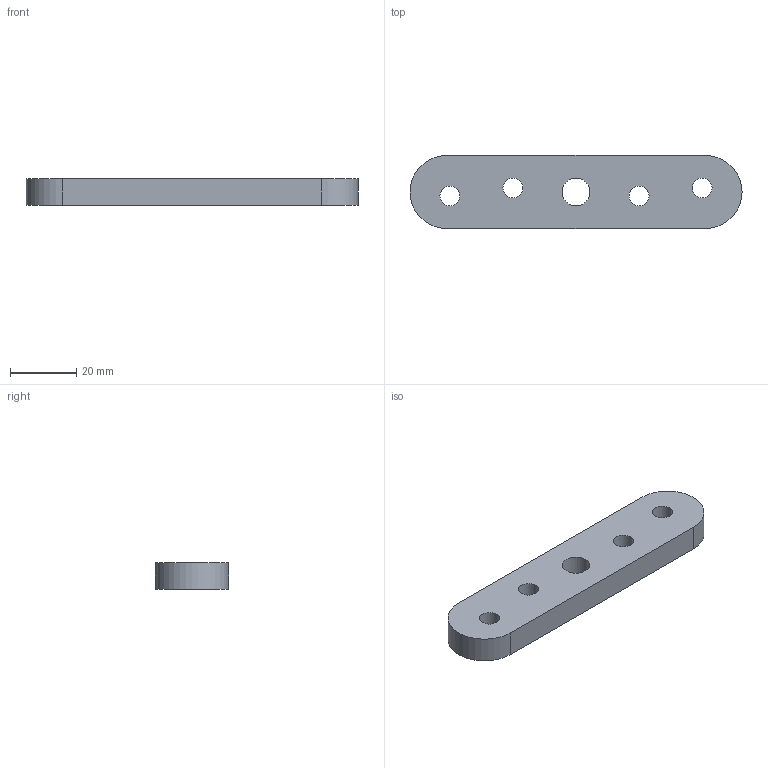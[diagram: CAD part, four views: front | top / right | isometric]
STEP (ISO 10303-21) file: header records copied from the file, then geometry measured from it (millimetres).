
FILE_DESCRIPTION(/* description */ ('Traegerplatte Nr.0'),/* implementation_level */ '2;1');
FILE_NAME(/* name */ 'Q:\sge-ma\Produktmanagement-STB\STB\Workspace\stp\010330969.stp',/* time_stamp */ '2015-07-13T15:03:53+02:00',/* author */ ('avschreier'),/* organization */ (''),/* preprocessor_version */ 'ST-DEVELOPER v15.6',/* originating_system */ 'Autodesk Inventor 2015',/* authorisation */ '');
FILE_SCHEMA (('CONFIG_CONTROL_DESIGN'));
Length unit declared in the file: millimetre
Products named in the file (1): 010330969
Bounding box: 100 x 22 x 8 mm (x, y, z)
Volume: 14782.1 mm3; surface area: 6379.7 mm2
Topology: 1 solids, 1 shells, 15 faces, 35 edges, 22 vertices
Faces by surface type: cylinder 7, plane 4, cone 4
Full cylindrical faces by diameter (mm): 6 x4, 8.376 x1
Entity records: 434 total; most frequent: DIRECTION 76, CARTESIAN_POINT 64, ORIENTED_EDGE 52, EDGE_LOOP 34, AXIS2_PLACEMENT_3D 34, EDGE_CURVE 26, VERTEX_POINT 22, FACE_BOUND 19
